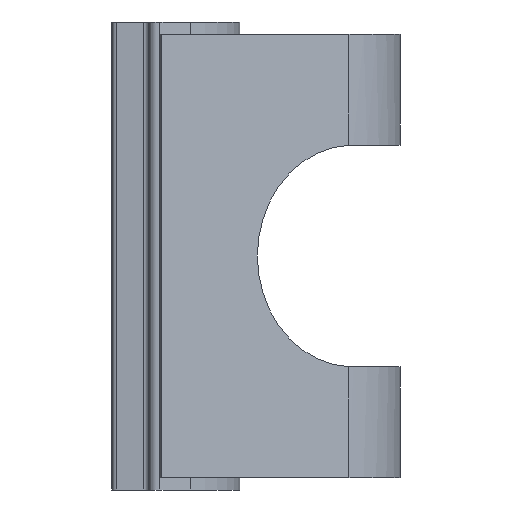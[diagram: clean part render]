
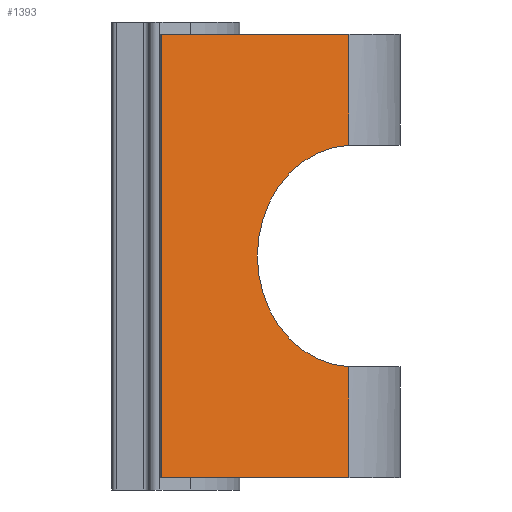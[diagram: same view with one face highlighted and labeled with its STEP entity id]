
A CAD part, left-side view. The second image highlights one B-rep face of the part: STEP entity #1393.
In plain terms, the highlighted planar face has unit normal (-0.866, -0.5, 0).
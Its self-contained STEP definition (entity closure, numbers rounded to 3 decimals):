
#9 = ORIENTED_EDGE ( 'NONE', *, *, #481, .T. ) ;
#64 = VERTEX_POINT ( 'NONE', #228 ) ;
#102 = AXIS2_PLACEMENT_3D ( 'NONE', #715, #1324, #319 ) ;
#106 = DIRECTION ( 'NONE',  ( 0., 0., -1. ) ) ;
#116 = CARTESIAN_POINT ( 'NONE',  ( -2.682, -9.625, 18.5 ) ) ;
#126 = DIRECTION ( 'NONE',  ( -0.866, -0.5, 0. ) ) ;
#187 = ORIENTED_EDGE ( 'NONE', *, *, #709, .T. ) ;
#221 = VERTEX_POINT ( 'NONE', #1366 ) ;
#227 = VECTOR ( 'NONE', #1138, 1000. ) ;
#228 = CARTESIAN_POINT ( 'NONE',  ( -2.682, -9.625, 18.5 ) ) ;
#249 = CARTESIAN_POINT ( 'NONE',  ( -7.085, -2., 18.5 ) ) ;
#252 = DIRECTION ( 'NONE',  ( 0.5, -0.866, 0. ) ) ;
#260 = CARTESIAN_POINT ( 'NONE',  ( -2.682, -9.625, 0.5 ) ) ;
#289 = EDGE_CURVE ( 'NONE', #398, #64, #1139, .T. ) ;
#319 = DIRECTION ( 'NONE',  ( -0.5, 0.866, 0. ) ) ;
#339 = EDGE_LOOP ( 'NONE', ( #1538, #1476, #9, #367, #1037, #187, #1509 ) ) ;
#352 = CIRCLE ( 'NONE', #102, 4.5 ) ;
#367 = ORIENTED_EDGE ( 'NONE', *, *, #902, .T. ) ;
#383 = VERTEX_POINT ( 'NONE', #1495 ) ;
#398 = VERTEX_POINT ( 'NONE', #549 ) ;
#399 = CARTESIAN_POINT ( 'NONE',  ( -7.085, -2., 18.5 ) ) ;
#449 = CARTESIAN_POINT ( 'NONE',  ( -7.085, -2., 0.5 ) ) ;
#462 = DIRECTION ( 'NONE',  ( 0.866, 0.5, 0. ) ) ;
#481 = EDGE_CURVE ( 'NONE', #221, #996, #352, .T. ) ;
#487 = CARTESIAN_POINT ( 'NONE',  ( -2.579, -9.803, 9.5 ) ) ;
#525 = EDGE_CURVE ( 'NONE', #1450, #221, #629, .T. ) ;
#549 = CARTESIAN_POINT ( 'NONE',  ( -2.682, -9.625, 13.995 ) ) ;
#629 = LINE ( 'NONE', #116, #1196 ) ;
#709 = EDGE_CURVE ( 'NONE', #64, #383, #1006, .T. ) ;
#715 = CARTESIAN_POINT ( 'NONE',  ( -2.579, -9.803, 9.5 ) ) ;
#746 = VECTOR ( 'NONE', #930, 1000. ) ;
#749 = DIRECTION ( 'NONE',  ( -0.5, 0.866, 0. ) ) ;
#782 = DIRECTION ( 'NONE',  ( 0., 0., 1. ) ) ;
#783 = EDGE_CURVE ( 'NONE', #784, #1450, #1181, .T. ) ;
#784 = VERTEX_POINT ( 'NONE', #1510 ) ;
#818 = AXIS2_PLACEMENT_3D ( 'NONE', #487, #462, #749 ) ;
#865 = PLANE ( 'NONE',  #1236 ) ;
#902 = EDGE_CURVE ( 'NONE', #996, #398, #1171, .T. ) ;
#909 = CARTESIAN_POINT ( 'NONE',  ( -2.682, -9.625, 18.5 ) ) ;
#930 = DIRECTION ( 'NONE',  ( 0.5, -0.866, 0. ) ) ;
#942 = CARTESIAN_POINT ( 'NONE',  ( -4.829, -5.906, 9.5 ) ) ;
#944 = EDGE_CURVE ( 'NONE', #383, #784, #1456, .T. ) ;
#964 = FACE_OUTER_BOUND ( 'NONE', #339, .T. ) ;
#996 = VERTEX_POINT ( 'NONE', #942 ) ;
#1006 = LINE ( 'NONE', #399, #227 ) ;
#1037 = ORIENTED_EDGE ( 'NONE', *, *, #289, .T. ) ;
#1138 = DIRECTION ( 'NONE',  ( -0.5, 0.866, 0. ) ) ;
#1139 = LINE ( 'NONE', #909, #1147 ) ;
#1147 = VECTOR ( 'NONE', #782, 1000. ) ;
#1171 = CIRCLE ( 'NONE', #818, 4.5 ) ;
#1181 = LINE ( 'NONE', #449, #746 ) ;
#1196 = VECTOR ( 'NONE', #1331, 1000. ) ;
#1217 = CARTESIAN_POINT ( 'NONE',  ( -7.085, -2., 18.5 ) ) ;
#1236 = AXIS2_PLACEMENT_3D ( 'NONE', #1217, #126, #252 ) ;
#1271 = VECTOR ( 'NONE', #106, 1000. ) ;
#1324 = DIRECTION ( 'NONE',  ( 0.866, 0.5, 0. ) ) ;
#1331 = DIRECTION ( 'NONE',  ( 0., 0., 1. ) ) ;
#1366 = CARTESIAN_POINT ( 'NONE',  ( -2.682, -9.625, 5.005 ) ) ;
#1393 = ADVANCED_FACE ( 'NONE', ( #964 ), #865, .T. ) ;
#1450 = VERTEX_POINT ( 'NONE', #260 ) ;
#1456 = LINE ( 'NONE', #249, #1271 ) ;
#1476 = ORIENTED_EDGE ( 'NONE', *, *, #525, .T. ) ;
#1495 = CARTESIAN_POINT ( 'NONE',  ( -7.085, -2., 18.5 ) ) ;
#1509 = ORIENTED_EDGE ( 'NONE', *, *, #944, .T. ) ;
#1510 = CARTESIAN_POINT ( 'NONE',  ( -7.085, -2., 0.5 ) ) ;
#1538 = ORIENTED_EDGE ( 'NONE', *, *, #783, .T. ) ;
